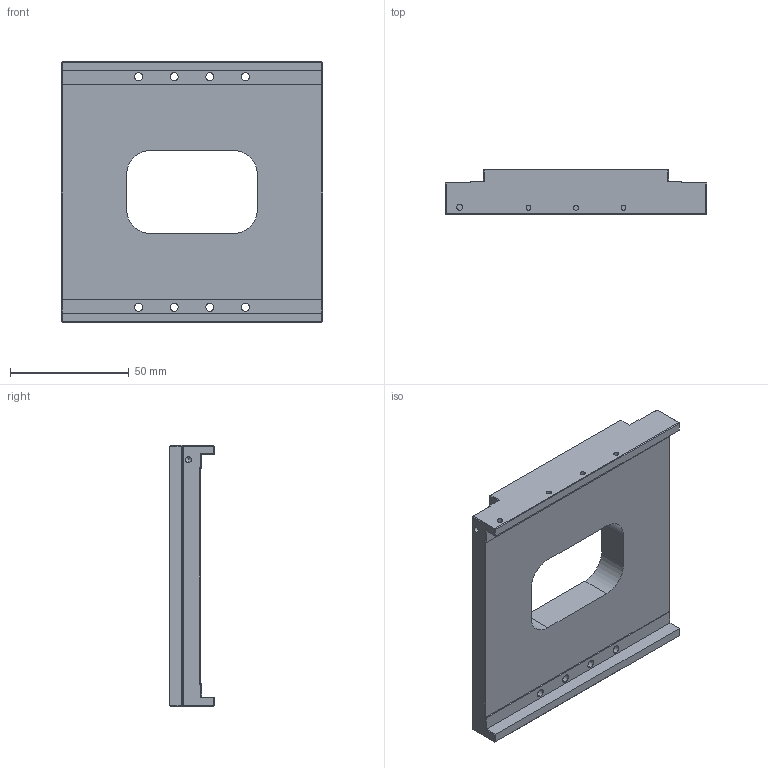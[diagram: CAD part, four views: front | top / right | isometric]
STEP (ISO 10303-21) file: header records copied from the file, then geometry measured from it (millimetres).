
FILE_DESCRIPTION (( 'STEP AP214' ), '1' );
FILE_NAME ('錨璃6.STEP', '2026-10-12T09:21:01', ( '' ), ( '' ), 'SwSTEP 2.0', 'SolidWorks 2024', '' );
FILE_SCHEMA (( 'AUTOMOTIVE_DESIGN' ));
Length unit declared in the file: millimetre
Products named in the file (1): 零件6
Bounding box: 110 x 19 x 110 mm (x, y, z)
Volume: 117650.6 mm3; surface area: 32854.3 mm2
Topology: 1 solids, 1 shells, 182 faces, 434 edges, 249 vertices
Faces by surface type: plane 86, cylinder 70, cone 26
Entity records: 5075 total; most frequent: DIRECTION 914, CARTESIAN_POINT 840, ORIENTED_EDGE 816, EDGE_CURVE 408, AXIS2_PLACEMENT_3D 323, VECTOR 268, LINE 268, VERTEX_POINT 249
